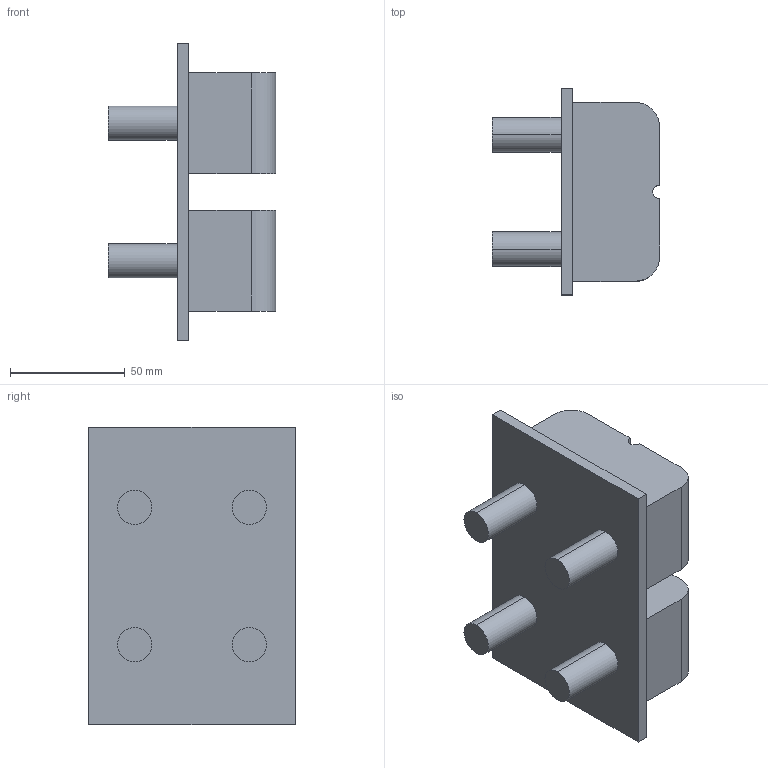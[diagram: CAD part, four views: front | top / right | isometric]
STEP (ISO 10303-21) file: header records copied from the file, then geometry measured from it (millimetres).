
FILE_DESCRIPTION(('STEP AP214'),'1');
FILE_NAME('C:/Users/mashimo/Documents/円弧動エンジン/ボア4.4ｃｍ/TurboCAD/3D/tmp0.STEP','2023-12-27T10:17:15',(' '),(' '),'Spatial InterOp 3D',' ',' ');
FILE_SCHEMA(('automotive_design'));
Length unit declared in the file: millimetre
Products named in the file (1): 1
Bounding box: 73 x 90 x 130 mm (x, y, z)
Volume: 335129.5 mm3; surface area: 49061.3 mm2
Topology: 1 solids, 1 shells, 38 faces, 90 edges, 60 vertices
Faces by surface type: plane 22, cylinder 16
Entity records: 1434 total; most frequent: DIRECTION 200, CARTESIAN_POINT 189, ORIENTED_EDGE 180, EDGE_CURVE 90, AXIS2_PLACEMENT_3D 71, VERTEX_POINT 60, LINE 58, VECTOR 58
